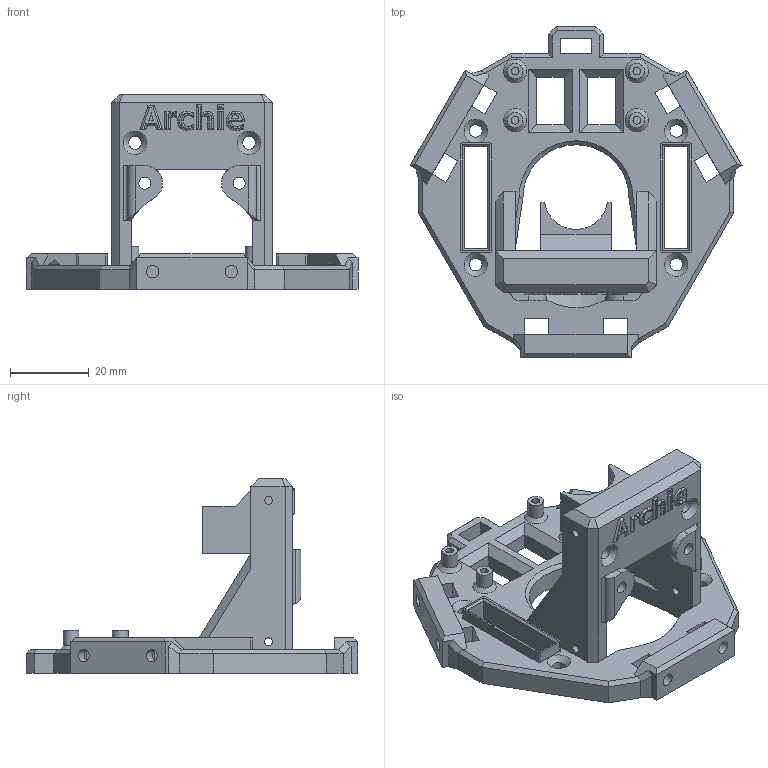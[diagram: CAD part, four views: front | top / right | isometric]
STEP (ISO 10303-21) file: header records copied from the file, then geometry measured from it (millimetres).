
FILE_DESCRIPTION(/* description */ (''),/* implementation_level */ '2;1');
FILE_NAME(/* name */ 'D:\3D печать\Мои проекты\Archy MK 2\STEP\MK3\эффектор V2,1 под E3D V6.stp',/* time_stamp */ '2019-07-18T21:41:39+06:00',/* author */ ('Пользователь'),/* organization */ (''),/* preprocessor_version */ 'ST-DEVELOPER v16.5',/* originating_system */ 'Autodesk Inventor 2017',/* authorisation */ '');
FILE_SCHEMA (('AUTOMOTIVE_DESIGN { 1 0 10303 214 3 1 1 }'));
Length unit declared in the file: millimetre
Products named in the file (1): эффектор V2,1 \X2\043F
043E0434\X0\ E3D V6
Bounding box: 84.49 x 84.35 x 49.5 mm (x, y, z)
Volume: 35298.7 mm3; surface area: 19108.6 mm2
Topology: 1 solids, 1 shells, 373 faces, 1001 edges, 653 vertices
Faces by surface type: plane 248, cylinder 77, bspline 37, cone 11
Full cylindrical faces by diameter (mm): 2 x8, 3.1 x2, 3.2 x12, 4 x4
Entity records: 13077 total; most frequent: CARTESIAN_POINT 3904, ORIENTED_EDGE 1914, DIRECTION 1715, EDGE_CURVE 957, LINE 707, VECTOR 707, VERTEX_POINT 641, AXIS2_PLACEMENT_3D 504
